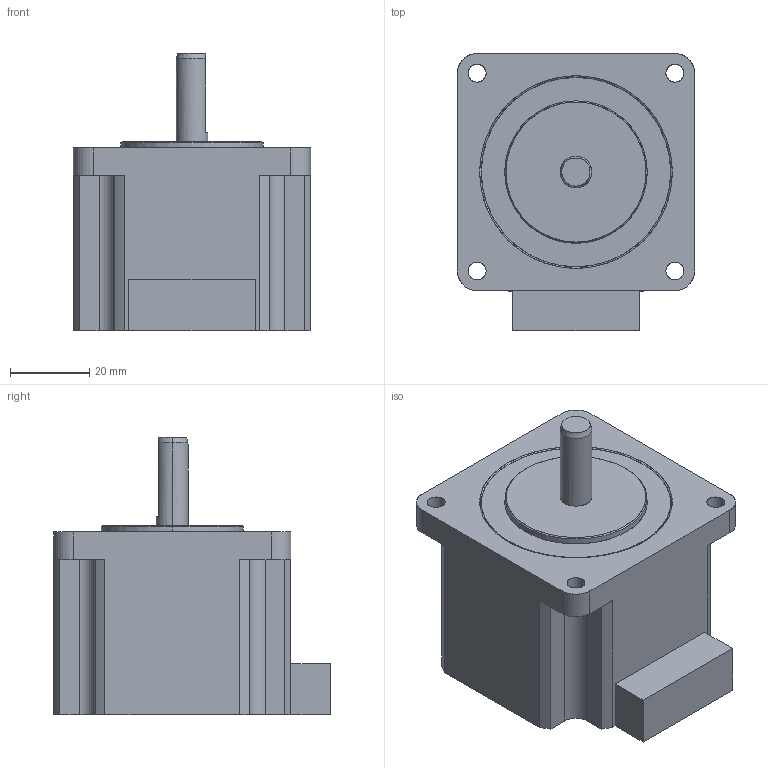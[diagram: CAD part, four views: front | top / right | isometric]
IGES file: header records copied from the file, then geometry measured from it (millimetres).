
Start section: SolidWorks IGES file using analytic representation for surfaces
Global section: file name: C:\Users\7666\Desktop\PMSA-U60D1_3D\PMSA-U60D1_3D.IGS; native system: SolidWorks 2014; preprocessor: SolidWorks 2014; author: 7666; date: 170131.164405; units: millimetre
Bounding box: 60 x 70 x 70.3 mm (x, y, z)
Surface area: 19501.8 mm2 (no closed solid volume)
Topology: 0 solids, 0 shells, 64 faces, 1020 edges, 1020 vertices
Faces by surface type: revolution 35, bspline 29
